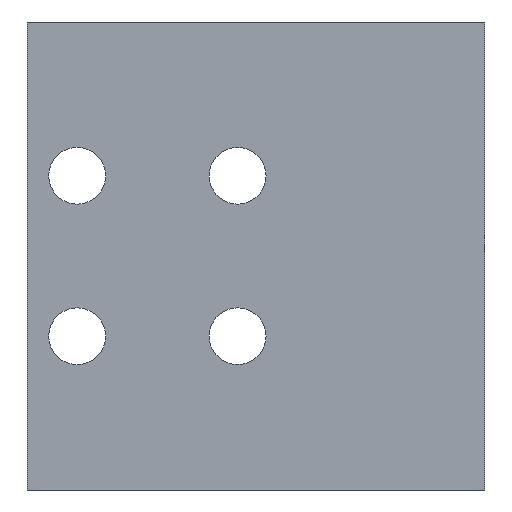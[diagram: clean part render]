
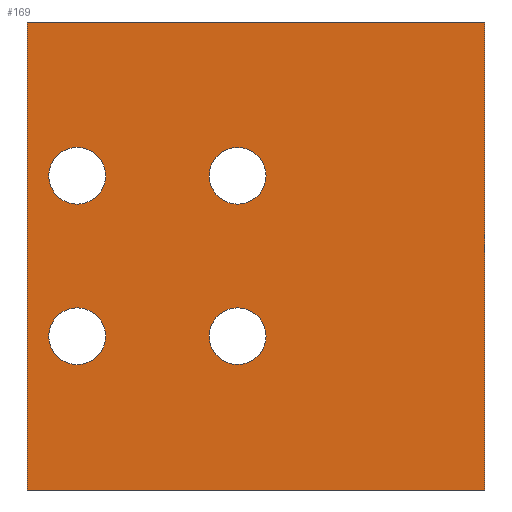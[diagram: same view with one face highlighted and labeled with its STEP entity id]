
A CAD part, front view. The second image highlights one B-rep face of the part: STEP entity #169.
In plain terms, the highlighted planar face has unit normal (0, -1, 0).
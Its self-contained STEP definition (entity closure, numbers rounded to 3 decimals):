
#113 = EDGE_CURVE( '', #135, #175, #280, .T. );
#117 = VERTEX_POINT( '', #284 );
#125 = EDGE_CURVE( '', #135, #229, #293, .T. );
#133 = EDGE_CURVE( '', #191, #117, #302, .T. );
#135 = VERTEX_POINT( '', #304 );
#145 = EDGE_CURVE( '', #229, #199, #314, .T. );
#157 = EDGE_CURVE( '', #163, #217, #327, .T. );
#163 = VERTEX_POINT( '', #334 );
#165 = VERTEX_POINT( '', #336 );
#169 = ADVANCED_FACE( '', ( #340, #341, #342, #343, #344 ), #345, .T. );
#175 = VERTEX_POINT( '', #352 );
#181 = VERTEX_POINT( '', #358 );
#191 = VERTEX_POINT( '', #368 );
#195 = EDGE_CURVE( '', #211, #165, #377, .T. );
#197 = EDGE_CURVE( '', #217, #163, #379, .T. );
#199 = VERTEX_POINT( '', #381 );
#207 = EDGE_CURVE( '', #181, #227, #391, .T. );
#209 = EDGE_CURVE( '', #175, #199, #393, .T. );
#211 = VERTEX_POINT( '', #395 );
#217 = VERTEX_POINT( '', #402 );
#227 = VERTEX_POINT( '', #413 );
#229 = VERTEX_POINT( '', #415 );
#241 = EDGE_CURVE( '', #227, #181, #429, .T. );
#243 = EDGE_CURVE( '', #165, #211, #431, .T. );
#247 = EDGE_CURVE( '', #117, #191, #435, .T. );
#280 = LINE( '', #466, #467 );
#284 = CARTESIAN_POINT( '', ( -7., 0., 12. ) );
#293 = LINE( '', #485, #486 );
#302 = CIRCLE( '', #498, 4.25 );
#304 = CARTESIAN_POINT( '', ( 34.25, 0., 35. ) );
#314 = LINE( '', #513, #514 );
#327 = CIRCLE( '', #530, 4.25 );
#334 = CARTESIAN_POINT( '', ( -22.5, 0., -12. ) );
#336 = CARTESIAN_POINT( '', ( -22.5, 0., 12. ) );
#340 = FACE_BOUND( '', #546, .T. );
#341 = FACE_BOUND( '', #547, .T. );
#342 = FACE_BOUND( '', #548, .T. );
#343 = FACE_BOUND( '', #549, .T. );
#344 = FACE_OUTER_BOUND( '', #550, .T. );
#345 = PLANE( '', #551 );
#352 = CARTESIAN_POINT( '', ( 34.25, 0., -35. ) );
#358 = CARTESIAN_POINT( '', ( 1.5, 0., -12. ) );
#368 = CARTESIAN_POINT( '', ( 1.5, 0., 12. ) );
#377 = CIRCLE( '', #591, 4.25 );
#379 = CIRCLE( '', #594, 4.25 );
#381 = CARTESIAN_POINT( '', ( -34.25, 0., -35. ) );
#391 = CIRCLE( '', #608, 4.25 );
#393 = LINE( '', #611, #612 );
#395 = CARTESIAN_POINT( '', ( -31., 0., 12. ) );
#402 = CARTESIAN_POINT( '', ( -31., 0., -12. ) );
#413 = CARTESIAN_POINT( '', ( -7., 0., -12. ) );
#415 = CARTESIAN_POINT( '', ( -34.25, 0., 35. ) );
#429 = CIRCLE( '', #658, 4.25 );
#431 = CIRCLE( '', #661, 4.25 );
#435 = CIRCLE( '', #668, 4.25 );
#466 = CARTESIAN_POINT( '', ( 34.25, 0., 35. ) );
#467 = VECTOR( '', #684, 1. );
#485 = CARTESIAN_POINT( '', ( 34.25, 0., 35. ) );
#486 = VECTOR( '', #695, 1. );
#498 = AXIS2_PLACEMENT_3D( '', #705, #706, #707 );
#513 = CARTESIAN_POINT( '', ( -34.25, 0., 35. ) );
#514 = VECTOR( '', #709, 1. );
#530 = AXIS2_PLACEMENT_3D( '', #719, #720, #721 );
#546 = EDGE_LOOP( '', ( #735, #736 ) );
#547 = EDGE_LOOP( '', ( #737, #738 ) );
#548 = EDGE_LOOP( '', ( #739, #740 ) );
#549 = EDGE_LOOP( '', ( #741, #742 ) );
#550 = EDGE_LOOP( '', ( #743, #744, #745, #746 ) );
#551 = AXIS2_PLACEMENT_3D( '', #747, #748, #749 );
#591 = AXIS2_PLACEMENT_3D( '', #784, #785, #786 );
#594 = AXIS2_PLACEMENT_3D( '', #787, #788, #789 );
#608 = AXIS2_PLACEMENT_3D( '', #809, #810, #811 );
#611 = CARTESIAN_POINT( '', ( 34.25, 0., -35. ) );
#612 = VECTOR( '', #812, 1. );
#658 = AXIS2_PLACEMENT_3D( '', #857, #858, #859 );
#661 = AXIS2_PLACEMENT_3D( '', #860, #861, #862 );
#668 = AXIS2_PLACEMENT_3D( '', #864, #865, #866 );
#684 = DIRECTION( '', ( 0., 0., -1. ) );
#695 = DIRECTION( '', ( -1., 0., 0. ) );
#705 = CARTESIAN_POINT( '', ( -2.75, 0., 12. ) );
#706 = DIRECTION( '', ( 0., 1., 0. ) );
#707 = DIRECTION( '', ( -1., 0., 0. ) );
#709 = DIRECTION( '', ( 0., 0., -1. ) );
#719 = CARTESIAN_POINT( '', ( -26.75, 0., -12. ) );
#720 = DIRECTION( '', ( 0., 1., 0. ) );
#721 = DIRECTION( '', ( -1., 0., 0. ) );
#735 = ORIENTED_EDGE( '', *, *, #133, .T. );
#736 = ORIENTED_EDGE( '', *, *, #247, .T. );
#737 = ORIENTED_EDGE( '', *, *, #243, .T. );
#738 = ORIENTED_EDGE( '', *, *, #195, .T. );
#739 = ORIENTED_EDGE( '', *, *, #207, .T. );
#740 = ORIENTED_EDGE( '', *, *, #241, .T. );
#741 = ORIENTED_EDGE( '', *, *, #157, .T. );
#742 = ORIENTED_EDGE( '', *, *, #197, .T. );
#743 = ORIENTED_EDGE( '', *, *, #145, .T. );
#744 = ORIENTED_EDGE( '', *, *, #209, .F. );
#745 = ORIENTED_EDGE( '', *, *, #113, .F. );
#746 = ORIENTED_EDGE( '', *, *, #125, .T. );
#747 = CARTESIAN_POINT( '', ( 34.25, 0., 35. ) );
#748 = DIRECTION( '', ( 0., -1., 0. ) );
#749 = DIRECTION( '', ( 0., 0., 1. ) );
#784 = CARTESIAN_POINT( '', ( -26.75, 0., 12. ) );
#785 = DIRECTION( '', ( 0., 1., 0. ) );
#786 = DIRECTION( '', ( -1., 0., 0. ) );
#787 = CARTESIAN_POINT( '', ( -26.75, 0., -12. ) );
#788 = DIRECTION( '', ( 0., 1., 0. ) );
#789 = DIRECTION( '', ( -1., 0., 0. ) );
#809 = CARTESIAN_POINT( '', ( -2.75, 0., -12. ) );
#810 = DIRECTION( '', ( 0., 1., 0. ) );
#811 = DIRECTION( '', ( -1., 0., 0. ) );
#812 = DIRECTION( '', ( -1., 0., 0. ) );
#857 = CARTESIAN_POINT( '', ( -2.75, 0., -12. ) );
#858 = DIRECTION( '', ( 0., 1., 0. ) );
#859 = DIRECTION( '', ( -1., 0., 0. ) );
#860 = CARTESIAN_POINT( '', ( -26.75, 0., 12. ) );
#861 = DIRECTION( '', ( 0., 1., 0. ) );
#862 = DIRECTION( '', ( -1., 0., 0. ) );
#864 = CARTESIAN_POINT( '', ( -2.75, 0., 12. ) );
#865 = DIRECTION( '', ( 0., 1., 0. ) );
#866 = DIRECTION( '', ( -1., 0., 0. ) );
